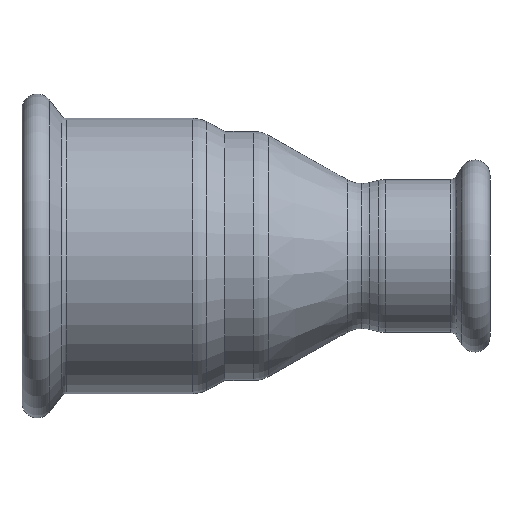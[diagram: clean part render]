
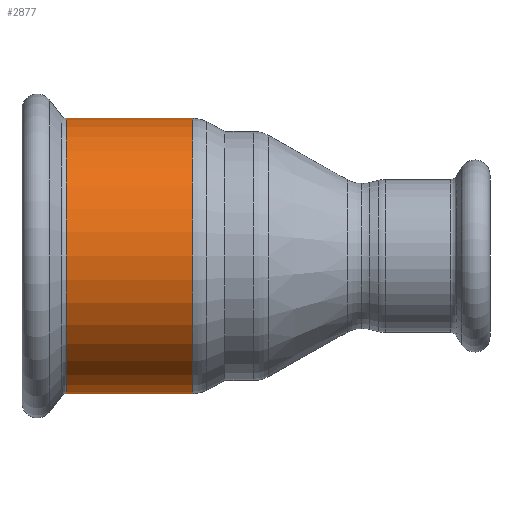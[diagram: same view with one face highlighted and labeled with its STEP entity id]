
A CAD part, front view. The second image highlights one B-rep face of the part: STEP entity #2877.
In plain terms, the highlighted cylindrical face has radius 22.65 mm (diameter 45.3 mm), a partial arc.
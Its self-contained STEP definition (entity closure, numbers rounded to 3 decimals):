
#229 = CYLINDRICAL_SURFACE ( 'NONE', #317, 22.65 ) ;
#317 = AXIS2_PLACEMENT_3D ( 'NONE', #1187, #928, #1357 ) ;
#599 = VERTEX_POINT ( 'NONE', #1985 ) ;
#696 = EDGE_CURVE ( 'NONE', #599, #1255, #858, .T. ) ;
#858 = CIRCLE ( 'NONE', #2217, 22.65 ) ;
#899 = CARTESIAN_POINT ( 'NONE',  ( -33.989, 0., 0. ) ) ;
#928 = DIRECTION ( 'NONE',  ( -1., 0., 0. ) ) ;
#1116 = DIRECTION ( 'NONE',  ( 1., 0., 0. ) ) ;
#1125 = EDGE_LOOP ( 'NONE', ( #2935, #1327, #2192, #1145 ) ) ;
#1145 = ORIENTED_EDGE ( 'NONE', *, *, #696, .T. ) ;
#1187 = CARTESIAN_POINT ( 'NONE',  ( -44.93, 0., 0. ) ) ;
#1197 = EDGE_CURVE ( 'NONE', #2869, #2616, #1365, .T. ) ;
#1255 = VERTEX_POINT ( 'NONE', #2764 ) ;
#1310 = CARTESIAN_POINT ( 'NONE',  ( -13.22, 0., -22.65 ) ) ;
#1327 = ORIENTED_EDGE ( 'NONE', *, *, #1197, .T. ) ;
#1357 = DIRECTION ( 'NONE',  ( 0., 0., 1. ) ) ;
#1365 = CIRCLE ( 'NONE', #2772, 22.65 ) ;
#1373 = CARTESIAN_POINT ( 'NONE',  ( -13.22, 0., 0. ) ) ;
#1564 = CARTESIAN_POINT ( 'NONE',  ( -44.93, 0., 22.65 ) ) ;
#1627 = CARTESIAN_POINT ( 'NONE',  ( -13.22, 0., 22.65 ) ) ;
#1635 = DIRECTION ( 'NONE',  ( -1., 0., 0. ) ) ;
#1759 = FACE_OUTER_BOUND ( 'NONE', #1125, .T. ) ;
#1860 = EDGE_CURVE ( 'NONE', #2616, #599, #2518, .T. ) ;
#1985 = CARTESIAN_POINT ( 'NONE',  ( -33.989, 0., 22.65 ) ) ;
#2064 = DIRECTION ( 'NONE',  ( 0., 0., -1. ) ) ;
#2089 = LINE ( 'NONE', #3013, #2331 ) ;
#2192 = ORIENTED_EDGE ( 'NONE', *, *, #1860, .T. ) ;
#2217 = AXIS2_PLACEMENT_3D ( 'NONE', #899, #1116, #2532 ) ;
#2331 = VECTOR ( 'NONE', #1635, 1000. ) ;
#2486 = DIRECTION ( 'NONE',  ( -1., 0., 0. ) ) ;
#2518 = LINE ( 'NONE', #1564, #2853 ) ;
#2532 = DIRECTION ( 'NONE',  ( 0., 0., 1. ) ) ;
#2550 = DIRECTION ( 'NONE',  ( -1., 0., 0. ) ) ;
#2616 = VERTEX_POINT ( 'NONE', #1627 ) ;
#2637 = EDGE_CURVE ( 'NONE', #2869, #1255, #2089, .T. ) ;
#2764 = CARTESIAN_POINT ( 'NONE',  ( -33.989, 0., -22.65 ) ) ;
#2772 = AXIS2_PLACEMENT_3D ( 'NONE', #1373, #2550, #2064 ) ;
#2853 = VECTOR ( 'NONE', #2486, 1000. ) ;
#2869 = VERTEX_POINT ( 'NONE', #1310 ) ;
#2877 = ADVANCED_FACE ( 'NONE', ( #1759 ), #229, .T. ) ;
#2935 = ORIENTED_EDGE ( 'NONE', *, *, #2637, .F. ) ;
#3013 = CARTESIAN_POINT ( 'NONE',  ( -44.93, 0., -22.65 ) ) ;
